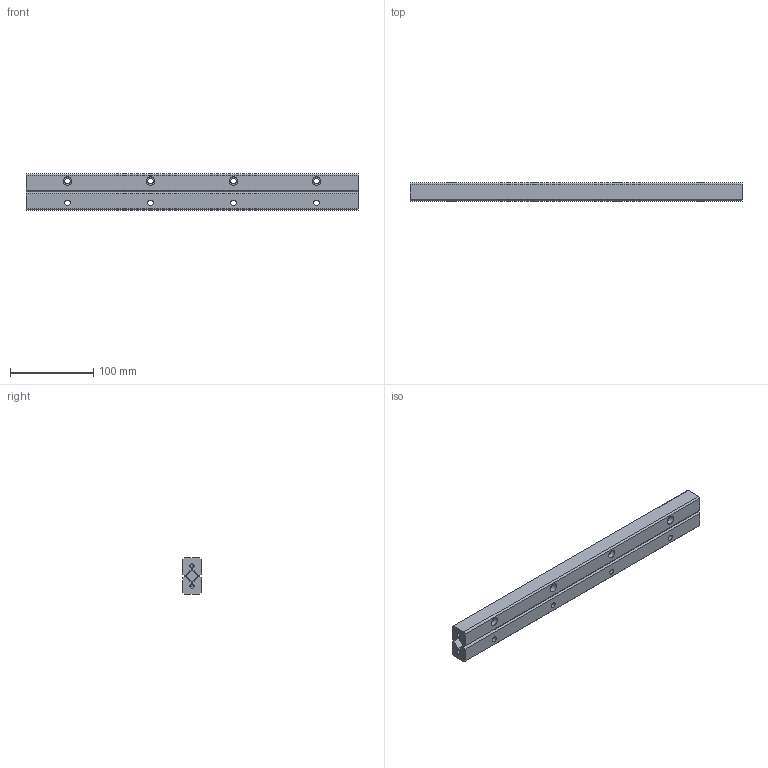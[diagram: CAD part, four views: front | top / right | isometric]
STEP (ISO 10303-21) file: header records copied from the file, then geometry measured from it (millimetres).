
FILE_DESCRIPTION((''),'2;1');
FILE_NAME('D:\製品 (図面)\カタログ用3D\リニアガイド関連\STEP形式\ACS9\ACS9400.stp','2010-07-29T15:46:38',('Tsuchiya'),(''),'Autodesk Inventor 10','Autodesk Inventor 10','');
FILE_SCHEMA(('AUTOMOTIVE_DESIGN { 1 0 10303 214 1 1 1 1 }'));
Length unit declared in the file: millimetre
Products named in the file (4): ACS9400; ACS94001; ACS94002; ACS94003
Assembly tree (3 placements, depth 2):
  ACS9400
    ACS94001
    ACS94002
    ACS94003
Bounding box: 400 x 22 x 44 mm (x, y, z)
Volume: 353026.4 mm3; surface area: 92870.7 mm2
Topology: 3 solids, 3 shells, 86 faces, 202 edges, 134 vertices
Faces by surface type: plane 52, bspline 28, cylinder 4, cone 2
Full cylindrical faces by diameter (mm): 4.917 x2
Entity records: 2675 total; most frequent: CARTESIAN_POINT 757, DIRECTION 346, ORIENTED_EDGE 344, EDGE_CURVE 172, EDGE_LOOP 138, VERTEX_POINT 128, VECTOR 128, LINE 128
